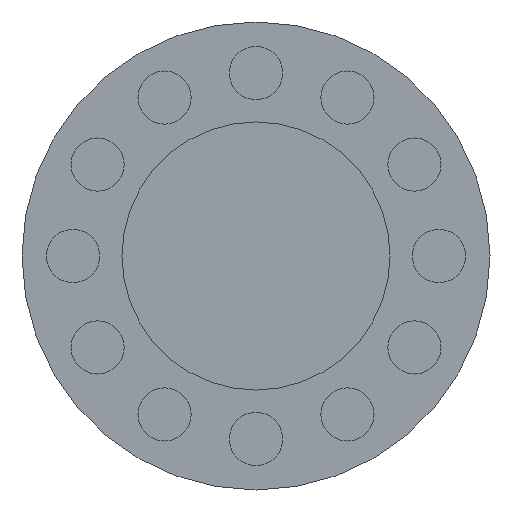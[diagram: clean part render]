
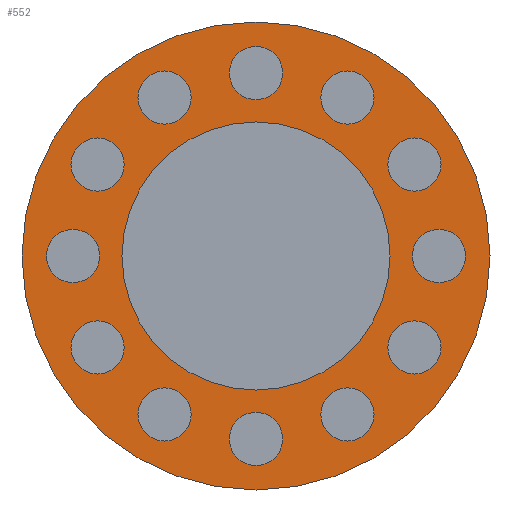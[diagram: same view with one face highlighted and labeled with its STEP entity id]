
A CAD part, front view. The second image highlights one B-rep face of the part: STEP entity #552.
In plain terms, the highlighted planar face has unit normal (0, -1, 0).
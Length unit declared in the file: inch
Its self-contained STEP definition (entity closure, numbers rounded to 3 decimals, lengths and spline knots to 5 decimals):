
#7 = VERTEX_POINT ( 'NONE', #64 ) ;
#8 = AXIS2_PLACEMENT_3D ( 'NONE', #139, #345, #39 ) ;
#10 = EDGE_CURVE ( 'NONE', #589, #589, #477, .T. ) ;
#14 = CARTESIAN_POINT ( 'NONE',  ( -0.18375, 0., 0.31826 ) ) ;
#20 = DIRECTION ( 'NONE',  ( 0., -1., 0. ) ) ;
#21 = DIRECTION ( 'NONE',  ( 0., -1., 0. ) ) ;
#23 = DIRECTION ( 'NONE',  ( 0., 0., 1. ) ) ;
#39 = DIRECTION ( 'NONE',  ( 0.5, 0., -0.866 ) ) ;
#44 = EDGE_CURVE ( 'NONE', #301, #301, #148, .T. ) ;
#45 = CIRCLE ( 'NONE', #602, 0.0625 ) ;
#48 = EDGE_LOOP ( 'NONE', ( #268 ) ) ;
#51 = FACE_BOUND ( 'NONE', #149, .T. ) ;
#52 = ORIENTED_EDGE ( 'NONE', *, *, #500, .F. ) ;
#53 = EDGE_LOOP ( 'NONE', ( #497 ) ) ;
#57 = VERTEX_POINT ( 'NONE', #164 ) ;
#64 = CARTESIAN_POINT ( 'NONE',  ( 0.31826, 0., -0.18375 ) ) ;
#68 = EDGE_CURVE ( 'NONE', #283, #283, #277, .T. ) ;
#75 = CARTESIAN_POINT ( 'NONE',  ( 0.215, 0., -0.37239 ) ) ;
#80 = ORIENTED_EDGE ( 'NONE', *, *, #643, .F. ) ;
#82 = EDGE_CURVE ( 'NONE', #545, #545, #547, .T. ) ;
#86 = DIRECTION ( 'NONE',  ( 0., 1., 0. ) ) ;
#87 = CIRCLE ( 'NONE', #528, 0.0625 ) ;
#88 = CARTESIAN_POINT ( 'NONE',  ( -0.215, 0., -0.37239 ) ) ;
#90 = ORIENTED_EDGE ( 'NONE', *, *, #406, .F. ) ;
#95 = EDGE_CURVE ( 'NONE', #165, #165, #295, .T. ) ;
#97 = DIRECTION ( 'NONE',  ( 0., -1., 0. ) ) ;
#98 = EDGE_LOOP ( 'NONE', ( #323 ) ) ;
#111 = ORIENTED_EDGE ( 'NONE', *, *, #82, .F. ) ;
#112 = CARTESIAN_POINT ( 'NONE',  ( -0.3675, 0., 0. ) ) ;
#114 = CARTESIAN_POINT ( 'NONE',  ( 0.18375, 0., -0.31826 ) ) ;
#120 = ORIENTED_EDGE ( 'NONE', *, *, #95, .F. ) ;
#122 = DIRECTION ( 'NONE',  ( 0., 1., 0. ) ) ;
#123 = AXIS2_PLACEMENT_3D ( 'NONE', #134, #583, #129 ) ;
#126 = AXIS2_PLACEMENT_3D ( 'NONE', #502, #255, #254 ) ;
#129 = DIRECTION ( 'NONE',  ( -0.5, 0., -0.866 ) ) ;
#130 = DIRECTION ( 'NONE',  ( 0., -1., 0. ) ) ;
#132 = CARTESIAN_POINT ( 'NONE',  ( 0.43, 0., 0. ) ) ;
#134 = CARTESIAN_POINT ( 'NONE',  ( 0.215, 0., 0.37239 ) ) ;
#139 = CARTESIAN_POINT ( 'NONE',  ( -0.215, 0., 0.37239 ) ) ;
#148 = CIRCLE ( 'NONE', #606, 0.0625 ) ;
#149 = EDGE_LOOP ( 'NONE', ( #450 ) ) ;
#153 = FACE_BOUND ( 'NONE', #478, .T. ) ;
#163 = CARTESIAN_POINT ( 'NONE',  ( 0.31826, 0., 0.18375 ) ) ;
#164 = CARTESIAN_POINT ( 'NONE',  ( 0.18375, 0., 0.31826 ) ) ;
#165 = VERTEX_POINT ( 'NONE', #114 ) ;
#166 = EDGE_LOOP ( 'NONE', ( #570 ) ) ;
#168 = CARTESIAN_POINT ( 'NONE',  ( 0., 0., 0.315 ) ) ;
#170 = AXIS2_PLACEMENT_3D ( 'NONE', #75, #130, #435 ) ;
#174 = FACE_BOUND ( 'NONE', #515, .T. ) ;
#178 = DIRECTION ( 'NONE',  ( -1., 0., 0. ) ) ;
#180 = DIRECTION ( 'NONE',  ( 0., -1., 0. ) ) ;
#182 = DIRECTION ( 'NONE',  ( 0., 0., 1. ) ) ;
#187 = CARTESIAN_POINT ( 'NONE',  ( -0.31826, 0., -0.18375 ) ) ;
#194 = VERTEX_POINT ( 'NONE', #618 ) ;
#197 = AXIS2_PLACEMENT_3D ( 'NONE', #466, #20, #23 ) ;
#199 = FACE_OUTER_BOUND ( 'NONE', #438, .T. ) ;
#205 = AXIS2_PLACEMENT_3D ( 'NONE', #321, #97, #624 ) ;
#211 = CIRCLE ( 'NONE', #409, 0.315 ) ;
#212 = DIRECTION ( 'NONE',  ( 0., -1., 0. ) ) ;
#218 = FACE_BOUND ( 'NONE', #494, .T. ) ;
#226 = CARTESIAN_POINT ( 'NONE',  ( 0., 0., 0.43 ) ) ;
#227 = CIRCLE ( 'NONE', #8, 0.0625 ) ;
#232 = CARTESIAN_POINT ( 'NONE',  ( -0.43, 0., 0. ) ) ;
#242 = CIRCLE ( 'NONE', #523, 0.0625 ) ;
#253 = EDGE_LOOP ( 'NONE', ( #80 ) ) ;
#254 = DIRECTION ( 'NONE',  ( 0.866, 0., -0.5 ) ) ;
#255 = DIRECTION ( 'NONE',  ( 0., -1., 0. ) ) ;
#261 = DIRECTION ( 'NONE',  ( -0.866, 0., -0.5 ) ) ;
#268 = ORIENTED_EDGE ( 'NONE', *, *, #318, .F. ) ;
#269 = ORIENTED_EDGE ( 'NONE', *, *, #483, .F. ) ;
#271 = CARTESIAN_POINT ( 'NONE',  ( 0., 0., 0.3675 ) ) ;
#277 = CIRCLE ( 'NONE', #126, 0.0625 ) ;
#278 = DIRECTION ( 'NONE',  ( 0., 0., 1. ) ) ;
#283 = VERTEX_POINT ( 'NONE', #417 ) ;
#285 = EDGE_LOOP ( 'NONE', ( #390 ) ) ;
#289 = AXIS2_PLACEMENT_3D ( 'NONE', #432, #86, #182 ) ;
#295 = CIRCLE ( 'NONE', #170, 0.0625 ) ;
#299 = VERTEX_POINT ( 'NONE', #14 ) ;
#301 = VERTEX_POINT ( 'NONE', #271 ) ;
#306 = CIRCLE ( 'NONE', #123, 0.0625 ) ;
#318 = EDGE_CURVE ( 'NONE', #299, #299, #227, .T. ) ;
#319 = DIRECTION ( 'NONE',  ( 0., -1., 0. ) ) ;
#321 = CARTESIAN_POINT ( 'NONE',  ( -0.37239, 0., -0.215 ) ) ;
#323 = ORIENTED_EDGE ( 'NONE', *, *, #549, .F. ) ;
#332 = DIRECTION ( 'NONE',  ( 0., -1., 0. ) ) ;
#345 = DIRECTION ( 'NONE',  ( 0., -1., 0. ) ) ;
#363 = ORIENTED_EDGE ( 'NONE', *, *, #10, .F. ) ;
#364 = CARTESIAN_POINT ( 'NONE',  ( 0.3675, 0., 0. ) ) ;
#375 = EDGE_LOOP ( 'NONE', ( #120 ) ) ;
#390 = ORIENTED_EDGE ( 'NONE', *, *, #68, .F. ) ;
#391 = DIRECTION ( 'NONE',  ( 0., -1., 0. ) ) ;
#394 = FACE_BOUND ( 'NONE', #375, .T. ) ;
#399 = VERTEX_POINT ( 'NONE', #168 ) ;
#406 = EDGE_CURVE ( 'NONE', #633, #633, #448, .T. ) ;
#409 = AXIS2_PLACEMENT_3D ( 'NONE', #628, #473, #278 ) ;
#413 = FACE_BOUND ( 'NONE', #53, .T. ) ;
#417 = CARTESIAN_POINT ( 'NONE',  ( -0.31826, 0., 0.18375 ) ) ;
#419 = DIRECTION ( 'NONE',  ( -0.866, 0., 0.5 ) ) ;
#422 = CARTESIAN_POINT ( 'NONE',  ( 0., 0., -0.3675 ) ) ;
#424 = EDGE_CURVE ( 'NONE', #522, #522, #242, .T. ) ;
#427 = DIRECTION ( 'NONE',  ( 0., 0., 1. ) ) ;
#431 = EDGE_CURVE ( 'NONE', #57, #57, #306, .T. ) ;
#432 = CARTESIAN_POINT ( 'NONE',  ( 0., 0., 0. ) ) ;
#435 = DIRECTION ( 'NONE',  ( -0.5, 0., 0.866 ) ) ;
#438 = EDGE_LOOP ( 'NONE', ( #90 ) ) ;
#440 = DIRECTION ( 'NONE',  ( 1., 0., 0. ) ) ;
#441 = DIRECTION ( 'NONE',  ( 0.5, 0., 0.866 ) ) ;
#448 = CIRCLE ( 'NONE', #289, 0.55 ) ;
#450 = ORIENTED_EDGE ( 'NONE', *, *, #44, .F. ) ;
#454 = CIRCLE ( 'NONE', #205, 0.0625 ) ;
#461 = FACE_BOUND ( 'NONE', #529, .T. ) ;
#466 = CARTESIAN_POINT ( 'NONE',  ( 0., 0., -0.43 ) ) ;
#473 = DIRECTION ( 'NONE',  ( 0., -1., 0. ) ) ;
#477 = CIRCLE ( 'NONE', #654, 0.0625 ) ;
#478 = EDGE_LOOP ( 'NONE', ( #52 ) ) ;
#483 = EDGE_CURVE ( 'NONE', #399, #399, #211, .T. ) ;
#485 = FACE_BOUND ( 'NONE', #166, .T. ) ;
#494 = EDGE_LOOP ( 'NONE', ( #363 ) ) ;
#497 = ORIENTED_EDGE ( 'NONE', *, *, #431, .F. ) ;
#499 = ORIENTED_EDGE ( 'NONE', *, *, #424, .F. ) ;
#500 = EDGE_CURVE ( 'NONE', #194, #194, #87, .T. ) ;
#501 = AXIS2_PLACEMENT_3D ( 'NONE', #567, #122, #427 ) ;
#502 = CARTESIAN_POINT ( 'NONE',  ( -0.37239, 0., 0.215 ) ) ;
#505 = CIRCLE ( 'NONE', #558, 0.0625 ) ;
#509 = CARTESIAN_POINT ( 'NONE',  ( 0.37239, 0., 0.215 ) ) ;
#511 = VERTEX_POINT ( 'NONE', #163 ) ;
#515 = EDGE_LOOP ( 'NONE', ( #499 ) ) ;
#516 = CARTESIAN_POINT ( 'NONE',  ( 0.37239, 0., -0.215 ) ) ;
#522 = VERTEX_POINT ( 'NONE', #112 ) ;
#523 = AXIS2_PLACEMENT_3D ( 'NONE', #232, #21, #440 ) ;
#528 = AXIS2_PLACEMENT_3D ( 'NONE', #88, #391, #441 ) ;
#529 = EDGE_LOOP ( 'NONE', ( #111 ) ) ;
#537 = FACE_BOUND ( 'NONE', #98, .T. ) ;
#545 = VERTEX_POINT ( 'NONE', #422 ) ;
#547 = CIRCLE ( 'NONE', #197, 0.0625 ) ;
#549 = EDGE_CURVE ( 'NONE', #593, #593, #454, .T. ) ;
#552 = ADVANCED_FACE ( 'NONE', ( #413, #485, #218, #596, #394, #461, #153, #537, #174, #626, #614, #51, #199, #644 ), #623, .F. ) ;
#556 = CARTESIAN_POINT ( 'NONE',  ( 0., 0., 0.55 ) ) ;
#558 = AXIS2_PLACEMENT_3D ( 'NONE', #509, #319, #261 ) ;
#567 = CARTESIAN_POINT ( 'NONE',  ( 0., 0., 0. ) ) ;
#570 = ORIENTED_EDGE ( 'NONE', *, *, #612, .F. ) ;
#578 = DIRECTION ( 'NONE',  ( 0., 0., -1. ) ) ;
#583 = DIRECTION ( 'NONE',  ( 0., -1., 0. ) ) ;
#589 = VERTEX_POINT ( 'NONE', #364 ) ;
#593 = VERTEX_POINT ( 'NONE', #187 ) ;
#596 = FACE_BOUND ( 'NONE', #253, .T. ) ;
#602 = AXIS2_PLACEMENT_3D ( 'NONE', #516, #212, #419 ) ;
#606 = AXIS2_PLACEMENT_3D ( 'NONE', #226, #332, #578 ) ;
#612 = EDGE_CURVE ( 'NONE', #511, #511, #505, .T. ) ;
#614 = FACE_BOUND ( 'NONE', #48, .T. ) ;
#618 = CARTESIAN_POINT ( 'NONE',  ( -0.18375, 0., -0.31826 ) ) ;
#623 = PLANE ( 'NONE',  #501 ) ;
#624 = DIRECTION ( 'NONE',  ( 0.866, 0., 0.5 ) ) ;
#626 = FACE_BOUND ( 'NONE', #285, .T. ) ;
#628 = CARTESIAN_POINT ( 'NONE',  ( 0., 0., 0. ) ) ;
#633 = VERTEX_POINT ( 'NONE', #556 ) ;
#643 = EDGE_CURVE ( 'NONE', #7, #7, #45, .T. ) ;
#644 = FACE_BOUND ( 'NONE', #646, .T. ) ;
#646 = EDGE_LOOP ( 'NONE', ( #269 ) ) ;
#654 = AXIS2_PLACEMENT_3D ( 'NONE', #132, #180, #178 ) ;
